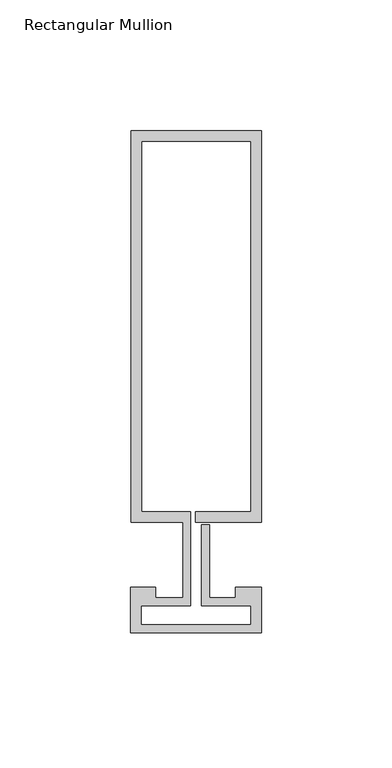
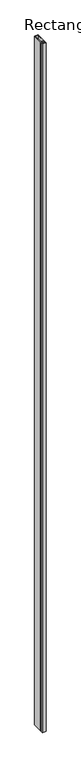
"""IFC4 building model written with IfcOpenShell, lengths in millimetres: member geometry, Rectangular Mullion : Reynaers_CW-50_Mullion-Transom_Vertical_149.8mm_Facecap-02B."""

from ifc_helpers import new_model, si_unit, frame, origin, place, context, project, spatial, polyline, outline, extrude, source, transform, mapped, element, save


def rectangular_mullion_f5edc5a7(model_context):
    return source(origin(), model_context, "Body", "SweptSolid", [
        extrude(outline(polyline([(-24.8004059, 162.3), (25.1995941, 162.3), (25.1995941, 12.5), (0.0, 12.5), (0.0, 16.5), (21.1995941, 16.5), (21.1995941, 158.3), (-20.8004059, 158.3), (-20.8004059, 16.5), (-1.9004059, 16.5), (-1.9004059, -19.5), (-20.994845, -19.5), (-20.994845, -26.7191338), (21.1995941, -26.7191338), (21.1995941, -19.5), (2.2995941, -19.5), (2.2995941, 11.5), (5.2995941, 11.5), (5.2995941, -16.5), (15.2996495, -16.5), (15.2996495, -12.5), (25.1995941, -12.5), (25.1995941, -29.8), (-24.994845, -29.8), (-24.994845, -12.5), (-15.2996495, -12.5), (-15.2996495, -16.5), (-4.9004059, -16.5), (-4.9004059, 12.5), (-24.8004059, 12.5), (-24.8004059, 162.3)])), frame((0.0, 0.0, -10400.0), z_axis=(0.0, 0.0, 1.0), x_axis=(1.0, 0.0, 0.0)), (0.0, 0.0, 1.0), 10400.0),
    ])


if __name__ == "__main__":
    model = new_model("IFC4")
    model_context = context("Model", 3, world=origin())
    ifc_project = project(units=[si_unit("LENGTHUNIT", "METRE", prefix="MILLI")], contexts=[model_context])
    site = spatial("IfcSite", under=ifc_project)
    building = spatial("IfcBuilding", under=site)
    placement = place(None, origin())
    rectangular_mullion_shape = rectangular_mullion_f5edc5a7(model_context)
    element("IfcMember", 1, ObjectType="Rectangular Mullion : Reynaers_CW-50_Mullion-Transom_Vertical_149.8mm_Facecap-02B", at=placement, inside=building, context=model_context, shape_type="MappedRepresentation", body=[
        mapped(rectangular_mullion_shape, transform((0.0, 0.0, 0.0), x_axis=(1.0, 0.0, 0.0), y_axis=(0.0, 1.0, 0.0), z_axis=(0.0, 0.0, 1.0))),
    ])
    save(model, "model.ifc")
